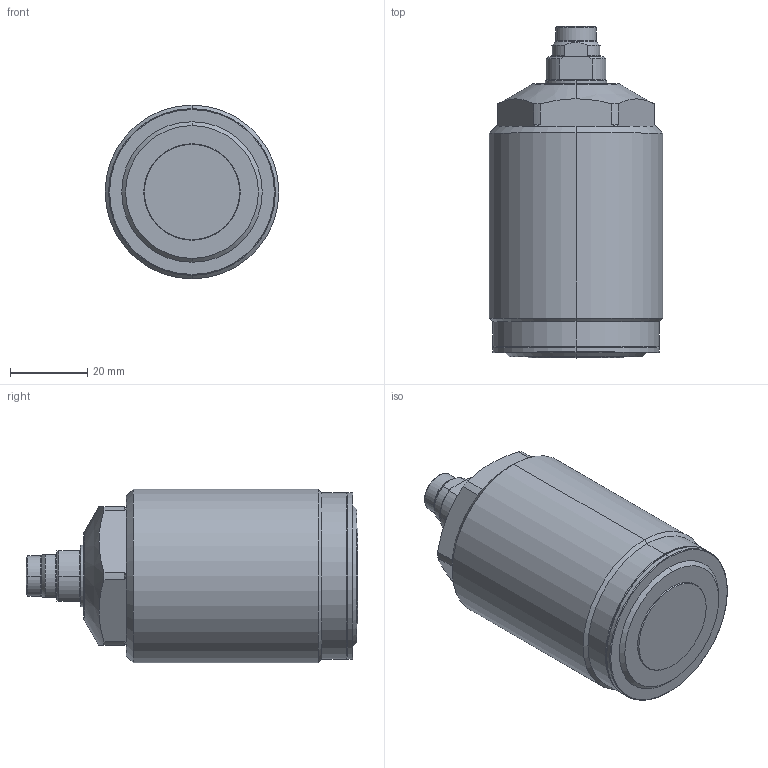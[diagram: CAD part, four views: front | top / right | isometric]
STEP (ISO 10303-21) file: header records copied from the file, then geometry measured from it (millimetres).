
FILE_DESCRIPTION(/* description */ (''),/* implementation_level */ '2;1');
FILE_NAME(/* name */ 'TSC06-M.stp',/* time_stamp */ '2025-01-10T11:13:19+08:00',/* author */ (''),/* organization */ (''),/* preprocessor_version */ 'ST-DEVELOPER v16.7',/* originating_system */ 'SIEMENS PLM Software NX 12.0',/* authorisation */ '');
FILE_SCHEMA (('AUTOMOTIVE_DESIGN { 1 0 10303 214 3 1 1 1 }'));
Length unit declared in the file: millimetre
Products named in the file (8): XLC-M10_Oring; XLC-M10SP_pin; XLC-M10SP_contactbolt; XLC-M10SP_pad; TSC06-0150; TSC06-0251; XLC-M10_-M; TSC06-M_stp
Assembly tree (7 placements, depth 3):
  TSC06-M_stp
    TSC06-0251
    TSC06-0150
    XLC-M10_-M
      XLC-M10SP_pad
      XLC-M10SP_contactbolt
      XLC-M10SP_pin
      XLC-M10_Oring
Bounding box: 45 x 86 x 45 mm (x, y, z)
Volume: 105152.1 mm3; surface area: 15696.9 mm2
Topology: 6 solids, 6 shells, 164 faces, 374 edges, 230 vertices
Faces by surface type: cylinder 53, plane 38, cone 37, torus 30, sphere 6
Entity records: 5246 total; most frequent: CARTESIAN_POINT 1264, DIRECTION 878, ORIENTED_EDGE 748, AXIS2_PLACEMENT_3D 382, EDGE_CURVE 374, VERTEX_POINT 230, CIRCLE 210, EDGE_LOOP 184
